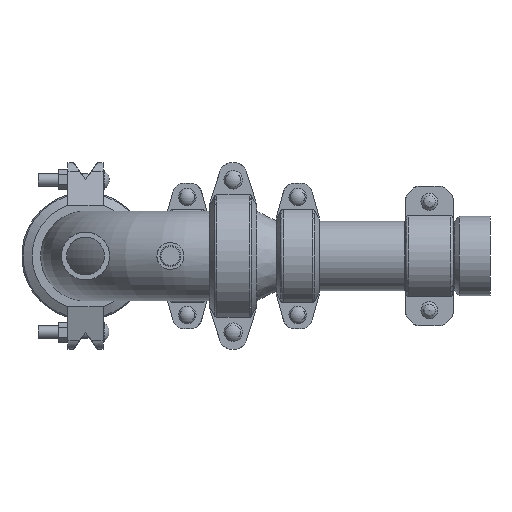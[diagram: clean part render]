
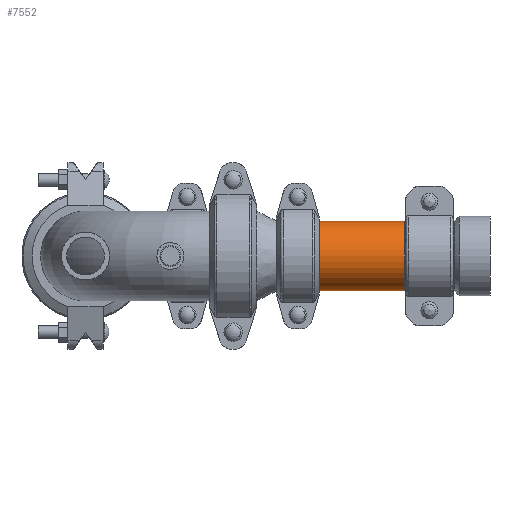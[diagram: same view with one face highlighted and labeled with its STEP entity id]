
A CAD part, front view. The second image highlights one B-rep face of the part: STEP entity #7552.
In plain terms, the highlighted cylindrical face has radius 44.45 mm (diameter 88.9 mm), a full revolution.
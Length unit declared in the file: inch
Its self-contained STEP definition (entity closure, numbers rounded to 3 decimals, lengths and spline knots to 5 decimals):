
#270=LINE('',#11557,#793);
#793=VECTOR('',#9180,1.75);
#1316=CYLINDRICAL_SURFACE('',#8230,1.75);
#1551=FACE_OUTER_BOUND('',#1953,.T.);
#1953=EDGE_LOOP('',(#4746,#4747,#4748,#4749,#4750,#4751));
#2445=CIRCLE('',#8228,1.75);
#2446=CIRCLE('',#8229,1.75);
#2447=CIRCLE('',#8231,1.75);
#2448=CIRCLE('',#8232,1.75);
#2897=VERTEX_POINT('',#11548);
#2898=VERTEX_POINT('',#11549);
#2899=VERTEX_POINT('',#11553);
#2900=VERTEX_POINT('',#11554);
#3643=EDGE_CURVE('',#2897,#2898,#2445,.T.);
#3644=EDGE_CURVE('',#2898,#2897,#2446,.T.);
#3645=EDGE_CURVE('',#2899,#2900,#2447,.T.);
#3646=EDGE_CURVE('',#2900,#2899,#2448,.T.);
#3647=EDGE_CURVE('',#2900,#2898,#270,.T.);
#4746=ORIENTED_EDGE('',*,*,#3645,.F.);
#4747=ORIENTED_EDGE('',*,*,#3646,.F.);
#4748=ORIENTED_EDGE('',*,*,#3647,.T.);
#4749=ORIENTED_EDGE('',*,*,#3644,.T.);
#4750=ORIENTED_EDGE('',*,*,#3643,.T.);
#4751=ORIENTED_EDGE('',*,*,#3647,.F.);
#7552=ADVANCED_FACE('',(#1551),#1316,.T.);
#8228=AXIS2_PLACEMENT_3D('',#11550,#9170,#9171);
#8229=AXIS2_PLACEMENT_3D('',#11551,#9172,#9173);
#8230=AXIS2_PLACEMENT_3D('',#11552,#9174,#9175);
#8231=AXIS2_PLACEMENT_3D('',#11555,#9176,#9177);
#8232=AXIS2_PLACEMENT_3D('',#11556,#9178,#9179);
#9170=DIRECTION('center_axis',(1.,0.,0.));
#9171=DIRECTION('ref_axis',(0.,0.,-1.));
#9172=DIRECTION('center_axis',(1.,0.,0.));
#9173=DIRECTION('ref_axis',(0.,0.,-1.));
#9174=DIRECTION('center_axis',(1.,0.,0.));
#9175=DIRECTION('ref_axis',(0.,1.,0.));
#9176=DIRECTION('center_axis',(1.,0.,0.));
#9177=DIRECTION('ref_axis',(0.,0.,-1.));
#9178=DIRECTION('center_axis',(1.,0.,0.));
#9179=DIRECTION('ref_axis',(0.,0.,-1.));
#9180=DIRECTION('',(-1.,0.,0.));
#11548=CARTESIAN_POINT('',(-2.1385,1.75,0.));
#11549=CARTESIAN_POINT('',(-2.1385,-1.75,0.));
#11550=CARTESIAN_POINT('Origin',(-2.1385,0.,0.));
#11551=CARTESIAN_POINT('Origin',(-2.1385,0.,0.));
#11552=CARTESIAN_POINT('Origin',(0.,0.,0.));
#11553=CARTESIAN_POINT('',(2.1385,1.75,0.));
#11554=CARTESIAN_POINT('',(2.1385,-1.75,0.));
#11555=CARTESIAN_POINT('Origin',(2.1385,0.,0.));
#11556=CARTESIAN_POINT('Origin',(2.1385,0.,0.));
#11557=CARTESIAN_POINT('',(0.,-1.75,0.));
